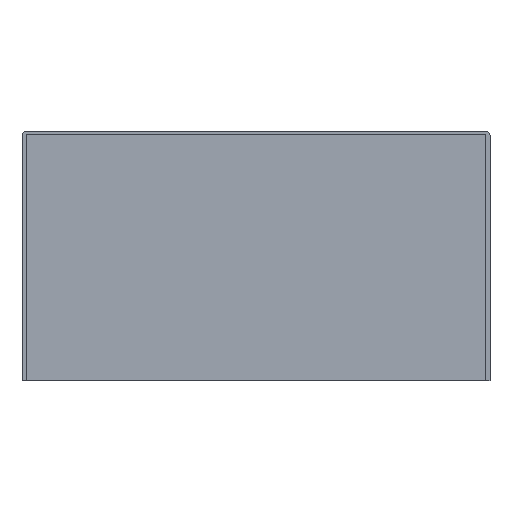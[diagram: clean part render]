
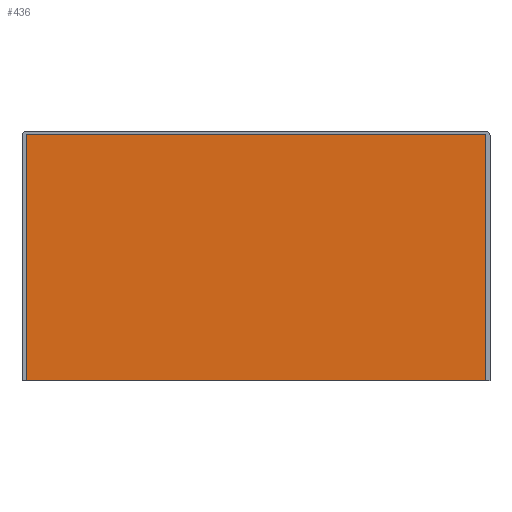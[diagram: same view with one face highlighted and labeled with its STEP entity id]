
A CAD part, front view. The second image highlights one B-rep face of the part: STEP entity #436.
In plain terms, the highlighted planar face has unit normal (0, -1, 0).
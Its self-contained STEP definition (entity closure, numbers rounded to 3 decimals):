
#30=PLANE('',#469);
#53=FACE_OUTER_BOUND('',#76,.T.);
#76=EDGE_LOOP('',(#382,#383,#384,#385));
#122=LINE('',#691,#174);
#125=LINE('',#696,#177);
#126=LINE('',#699,#178);
#128=LINE('',#702,#180);
#174=VECTOR('',#564,206.);
#177=VECTOR('',#569,110.5);
#178=VECTOR('',#572,110.5);
#180=VECTOR('',#576,206.);
#228=VERTEX_POINT('',#688);
#229=VERTEX_POINT('',#690);
#230=VERTEX_POINT('',#694);
#231=VERTEX_POINT('',#698);
#282=EDGE_CURVE('',#228,#229,#122,.T.);
#285=EDGE_CURVE('',#230,#228,#125,.T.);
#286=EDGE_CURVE('',#229,#231,#126,.T.);
#288=EDGE_CURVE('',#231,#230,#128,.T.);
#382=ORIENTED_EDGE('',*,*,#286,.F.);
#383=ORIENTED_EDGE('',*,*,#282,.F.);
#384=ORIENTED_EDGE('',*,*,#285,.F.);
#385=ORIENTED_EDGE('',*,*,#288,.F.);
#436=ADVANCED_FACE('',(#53),#30,.F.);
#469=AXIS2_PLACEMENT_3D('',#701,#574,#575);
#564=DIRECTION('',(1.,0.,0.));
#569=DIRECTION('',(0.,0.,1.));
#572=DIRECTION('',(0.,0.,-1.));
#574=DIRECTION('center_axis',(0.,1.,0.));
#575=DIRECTION('ref_axis',(0.,0.,1.));
#576=DIRECTION('',(-1.,0.,0.));
#688=CARTESIAN_POINT('',(-103.,-24.,54.5));
#690=CARTESIAN_POINT('',(103.,-24.,54.5));
#691=CARTESIAN_POINT('',(103.,-24.,54.5));
#694=CARTESIAN_POINT('',(-103.,-24.,-56.));
#696=CARTESIAN_POINT('',(-103.,-24.,-54.5));
#698=CARTESIAN_POINT('',(103.,-24.,-56.));
#699=CARTESIAN_POINT('',(103.,-24.,-54.5));
#701=CARTESIAN_POINT('Origin',(0.,-24.,-55.25));
#702=CARTESIAN_POINT('',(52.5,-24.,-56.));
